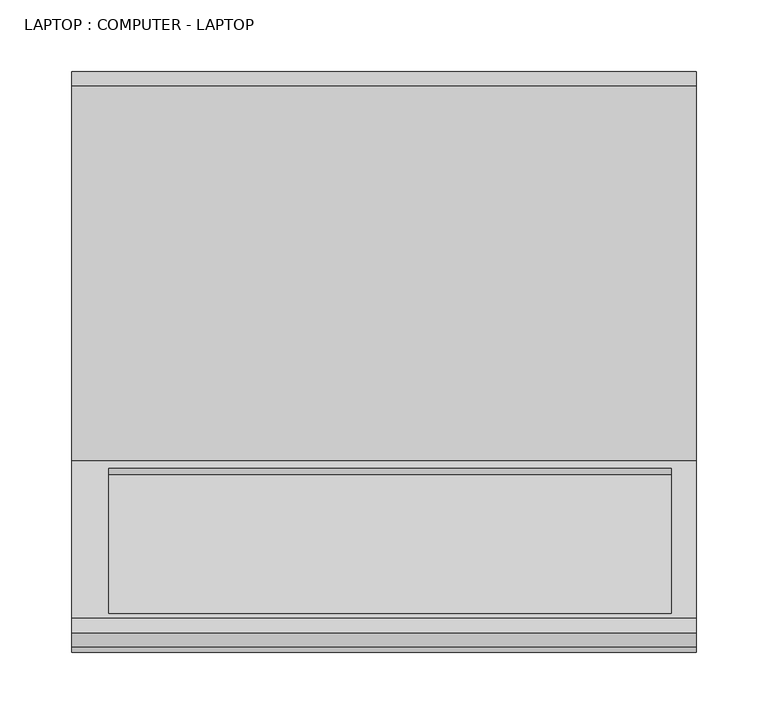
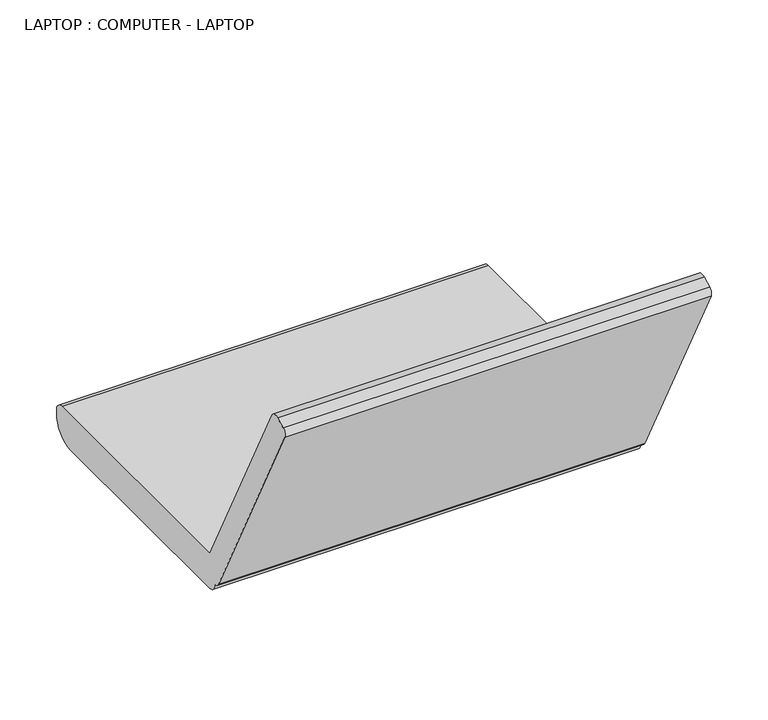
"""IFC4 building model written with IfcOpenShell, lengths in millimetres: proxy geometry, LAPTOP : COMPUTER - LAPTOP."""

from ifc_helpers import new_model, si_unit, frame, origin, place, context, project, spatial, circle_curve, source, transform, mapped, element, save
from ifc_brep_helpers import plane_surface, cylinder_surface, advanced_brep


def laptop_computer_laptop_a25d512b(model_context):
    return source(origin(), model_context, "Body", "AdvancedBrep", [
        advanced_brep(
        [(222.7099728, -100.9210567, 0.0), (222.7099728, 145.1276547, 0.0), (222.7099728, 170.1276547, 25.0), (222.7099728, 170.1276547, 28.0799582), (222.7099728, 160.1276547, 38.0799582), (222.7099728, -101.2168972, 38.0799582), (222.7099728, -211.0931325, 253.7242118), (222.7099728, -221.8218996, 257.2101996), (222.7099728, -231.5536076, 252.2516467), (222.7099728, -234.2198653, 244.0457491), (222.7099728, -116.9879492, 13.9651588), (222.7099728, -109.8065169, 10.0348777), (-212.691785, -100.9210567, 0.0), (-212.691785, -109.8065169, 10.0348777), (-212.691785, -116.9879492, 13.9651588), (-212.691785, -234.2198653, 244.0457491), (-212.691785, -231.5536076, 252.2516467), (-212.691785, -221.8218996, 257.2101996), (-212.691785, -211.0931325, 253.7242118), (-212.691785, -101.2168972, 38.0799582), (-212.691785, 160.1276547, 38.0799582), (-212.691785, 170.1276547, 28.0799582), (-212.691785, 170.1276547, 25.0), (-212.691785, 145.1276547, 0.0), (205.2836183, -207.9046647, 247.4664914), (-186.8371045, -207.9046647, 247.4664914), (-186.8371045, -106.7529487, 48.9450711), (205.2836183, -106.7529487, 48.9450711), (205.2836183, -212.3596973, 245.1965389), (205.2836183, -111.2079814, 46.6751186), (-186.8371045, -111.2079814, 46.6751186), (-186.8371045, -212.3596973, 245.1965389)],
        [
            (0, 1),
            (1, 2, circle_curve(frame((222.7099728, 145.1276547, 25.0), z_axis=(1.0, 0.0, 0.0), x_axis=(0.0, 1.0, 0.0)), 25.0)),
            (2, 3),
            (3, 4, circle_curve(frame((222.7099728, 160.1276547, 28.0799582), z_axis=(1.0, 0.0, 0.0), x_axis=(0.0, 1.0, 0.0)), 10.0)),
            (4, 5),
            (5, 6),
            (6, 7, circle_curve(frame((222.7099728, -218.2005099, 250.1028222), z_axis=(1.0, 0.0, 0.0), x_axis=(0.0, 1.0, 0.0)), 7.9767962)),
            (7, 8),
            (8, 9, circle_curve(frame((222.7099728, -228.7837877, 246.815569), z_axis=(1.0, 0.0, 0.0), x_axis=(0.0, 1.0, 0.0)), 6.1010526)),
            (9, 10),
            (10, 11, circle_curve(frame((222.7099728, -110.517398, 17.2620693), z_axis=(1.0, 0.0, 0.0), x_axis=(0.0, 1.0, 0.0)), 7.2620693)),
            (11, 0, circle_curve(frame((222.7099728, -100.9210567, 8.9512887), z_axis=(1.0, 0.0, 0.0), x_axis=(0.0, 1.0, 0.0)), 8.9512887)),
            (12, 13, circle_curve(frame((-212.691785, -100.9210567, 8.9512887), z_axis=(-1.0, 0.0, 0.0), x_axis=(0.0, 1.0, 0.0)), 8.9512887)),
            (13, 14, circle_curve(frame((-212.691785, -110.517398, 17.2620693), z_axis=(-1.0, 0.0, 0.0), x_axis=(0.0, 1.0, 0.0)), 7.2620693)),
            (14, 15),
            (15, 16, circle_curve(frame((-212.691785, -228.7837877, 246.815569), z_axis=(-1.0, 0.0, 0.0), x_axis=(0.0, 1.0, 0.0)), 6.1010526)),
            (16, 17),
            (17, 18, circle_curve(frame((-212.691785, -218.2005099, 250.1028222), z_axis=(-1.0, 0.0, 0.0), x_axis=(0.0, 1.0, 0.0)), 7.9767962)),
            (18, 19),
            (19, 20),
            (20, 21, circle_curve(frame((-212.691785, 160.1276547, 28.0799582), z_axis=(-1.0, 0.0, 0.0), x_axis=(0.0, 1.0, 0.0)), 10.0)),
            (21, 22),
            (22, 23, circle_curve(frame((-212.691785, 145.1276547, 25.0), z_axis=(-1.0, 0.0, 0.0), x_axis=(0.0, 1.0, 0.0)), 25.0)),
            (23, 12),
            (11, 13),
            (12, 0),
            (10, 14),
            (9, 15),
            (8, 16),
            (7, 17),
            (6, 18),
            (5, 19),
            (24, 25),
            (25, 26),
            (26, 27),
            (27, 24),
            (4, 20),
            (3, 21),
            (2, 22),
            (1, 23),
            (28, 24),
            (27, 29),
            (29, 28),
            (30, 26),
            (25, 31),
            (31, 30),
            (29, 30),
            (31, 28),
        ],
        [
            plane_surface(frame((222.7099728, -91.969768, 8.9512887), z_axis=(1.0, 0.0, 0.0), x_axis=(0.0, 0.0, -1.0))),
            plane_surface(frame((-212.691785, -91.969768, 8.9512887), z_axis=(-1.0, 0.0, 0.0), x_axis=(0.0, 0.0, 1.0))),
            cylinder_surface(frame((-212.691785, -100.9210567, 8.9512887), z_axis=(1.0, 0.0, 0.0), x_axis=(0.0, 1.0, 0.0)), 8.9512887),
            cylinder_surface(frame((-212.691785, -110.517398, 17.2620693), z_axis=(1.0, 0.0, 0.0), x_axis=(0.0, 1.0, 0.0)), 7.2620693),
            plane_surface(frame((222.7099728, -116.9879492, 13.9651588), z_axis=(0.0, -0.8910065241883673, -0.45399049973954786), x_axis=(-1.0, 0.0, 0.0))),
            cylinder_surface(frame((-212.691785, -228.7837877, 246.815569), z_axis=(1.0, 0.0, 0.0), x_axis=(0.0, 1.0, 0.0)), 6.1010526),
            plane_surface(frame((222.7099728, -231.5536076, 252.2516467), z_axis=(0.0, -0.45399049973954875, 0.8910065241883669), x_axis=(-1.0, 0.0, 0.0))),
            cylinder_surface(frame((-212.691785, -218.2005099, 250.1028222), z_axis=(1.0, 0.0, 0.0), x_axis=(0.0, 1.0, 0.0)), 7.9767962),
            plane_surface(frame((222.7099728, -211.0931325, 253.7242118), z_axis=(0.0, 0.8910065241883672, 0.4539904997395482), x_axis=(-1.0, 0.0, 0.0))),
            plane_surface(frame((222.7099728, -101.2168972, 38.0799582), z_axis=(0.0, 0.0, 1.0), x_axis=(-1.0, 0.0, 0.0))),
            cylinder_surface(frame((-212.691785, 160.1276547, 28.0799582), z_axis=(1.0, 0.0, 0.0), x_axis=(0.0, 1.0, 0.0)), 10.0),
            plane_surface(frame((222.7099728, 170.1276547, 28.0799582), z_axis=(0.0, 1.0, 0.0), x_axis=(-1.0, 0.0, 0.0))),
            cylinder_surface(frame((-212.691785, 145.1276547, 25.0), z_axis=(1.0, 0.0, 0.0), x_axis=(0.0, 1.0, 0.0)), 25.0),
            plane_surface(frame((222.7099728, 145.1276547, 0.0), z_axis=(0.0, 0.0, -1.0), x_axis=(-1.0, 0.0, 0.0))),
            plane_surface(frame((205.2836183, -215.5481651, 251.4542593), z_axis=(-1.0000000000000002, 0.0, 0.0), x_axis=(0.0, -0.4539904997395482, 0.8910065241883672))),
            plane_surface(frame((-186.8371045, -215.5481651, 251.4542593), z_axis=(1.0000000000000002, 0.0, 0.0), x_axis=(0.0, 0.4539904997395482, -0.8910065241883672))),
            plane_surface(frame((205.2836183, -111.2079814, 46.6751186), z_axis=(0.0, 0.8910065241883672, 0.4539904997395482), x_axis=(-1.0, 0.0, 0.0))),
            plane_surface(frame((205.2836183, -212.3596973, 245.1965389), z_axis=(0.0, 0.4539904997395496, -0.8910065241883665), x_axis=(-1.0, 0.0, 0.0))),
            plane_surface(frame((205.2836183, -102.146703, 51.2920705), z_axis=(0.0, -0.4539904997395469, 0.8910065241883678), x_axis=(-1.0, 0.0, 0.0))),
        ],
        [
            (0, [[1, 2, 3, 4, 5, 6, 7, 8, 9, 10, 11, 12]]),
            (1, [[13, 14, 15, 16, 17, 18, 19, 20, 21, 22, 23, 24]]),
            (2, [[25, -13, 26, -12]]),
            (3, [[27, -14, -25, -11]]),
            (4, [[28, -15, -27, -10]]),
            (5, [[29, -16, -28, -9]]),
            (6, [[30, -17, -29, -8]]),
            (7, [[31, -18, -30, -7]]),
            (8, [[32, -19, -31, -6], [33, 34, 35, 36]]),
            (9, [[37, -20, -32, -5]]),
            (10, [[38, -21, -37, -4]]),
            (11, [[39, -22, -38, -3]]),
            (12, [[40, -23, -39, -2]]),
            (13, [[-26, -24, -40, -1]]),
            (14, [[41, -36, 42, 43]]),
            (15, [[44, -34, 45, 46]]),
            (16, [[47, -46, 48, -43]]),
            (17, [[-45, -33, -41, -48]]),
            (18, [[-42, -35, -44, -47]]),
        ],
    ),
    ])


if __name__ == "__main__":
    model = new_model("IFC4")
    model_context = context("Model", 3, world=origin())
    ifc_project = project(units=[si_unit("LENGTHUNIT", "METRE", prefix="MILLI")], contexts=[model_context])
    site = spatial("IfcSite", under=ifc_project)
    building = spatial("IfcBuilding", under=site)
    placement = place(None, origin())
    laptop_computer_laptop_shape = laptop_computer_laptop_a25d512b(model_context)
    element("IfcBuildingElementProxy", 1, Name="LAPTOP : COMPUTER - LAPTOP", ObjectType="LAPTOP : COMPUTER - LAPTOP", at=placement, inside=building, context=model_context, shape_type="MappedRepresentation", body=[
        mapped(laptop_computer_laptop_shape, transform((0.0, 0.0, 0.0), x_axis=(1.0, 0.0, 0.0), y_axis=(0.0, 1.0, 0.0), z_axis=(0.0, 0.0, 1.0))),
    ])
    save(model, "model.ifc")
